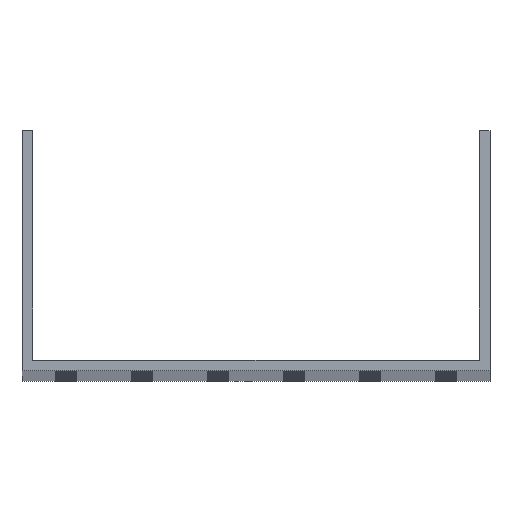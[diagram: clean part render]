
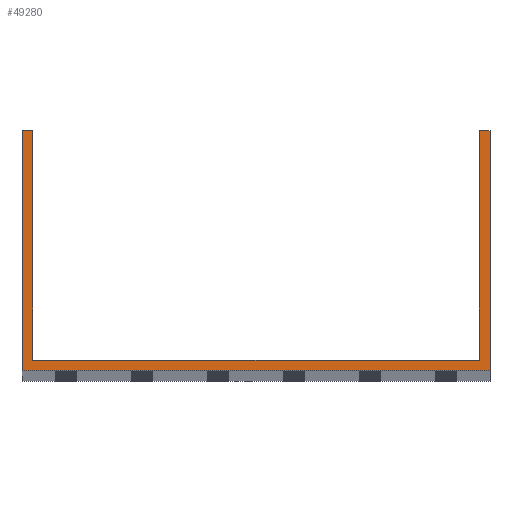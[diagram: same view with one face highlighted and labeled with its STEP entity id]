
A CAD part, top view. The second image highlights one B-rep face of the part: STEP entity #49280.
In plain terms, the highlighted planar face has unit normal (0, 0, 1).
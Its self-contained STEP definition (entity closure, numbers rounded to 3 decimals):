
#609 = AXIS2_PLACEMENT_3D ( 'NONE', #64916, #55627, #9570 ) ;
#1478 = VECTOR ( 'NONE', #8134, 1000. ) ;
#1769 = LINE ( 'NONE', #62081, #45636 ) ;
#4816 = VECTOR ( 'NONE', #45851, 1000. ) ;
#5750 = CARTESIAN_POINT ( 'NONE',  ( 77., 0., 1000. ) ) ;
#7536 = CARTESIAN_POINT ( 'NONE',  ( -77., 0., 1000. ) ) ;
#8134 = DIRECTION ( 'NONE',  ( 1., 0., 0. ) ) ;
#9160 = ORIENTED_EDGE ( 'NONE', *, *, #48525, .T. ) ;
#9570 = DIRECTION ( 'NONE',  ( 1., 0., 0. ) ) ;
#10573 = LINE ( 'NONE', #42027, #43403 ) ;
#11366 = LINE ( 'NONE', #26270, #25246 ) ;
#11472 = CARTESIAN_POINT ( 'NONE',  ( -73.5, 79., 1000. ) ) ;
#12457 = EDGE_CURVE ( 'NONE', #39466, #64812, #47247, .T. ) ;
#12770 = CARTESIAN_POINT ( 'NONE',  ( -77., 0., 1000. ) ) ;
#12848 = EDGE_CURVE ( 'NONE', #35531, #17724, #1769, .T. ) ;
#13494 = DIRECTION ( 'NONE',  ( 1., 0., 0. ) ) ;
#13729 = EDGE_CURVE ( 'NONE', #28299, #50551, #10573, .T. ) ;
#14885 = CARTESIAN_POINT ( 'NONE',  ( 77., 79., 1000. ) ) ;
#16999 = DIRECTION ( 'NONE',  ( 0., -1., 0. ) ) ;
#17086 = DIRECTION ( 'NONE',  ( 0., -1., 0. ) ) ;
#17724 = VERTEX_POINT ( 'NONE', #7536 ) ;
#18060 = DIRECTION ( 'NONE',  ( -1., 0., 0. ) ) ;
#18456 = LINE ( 'NONE', #30269, #46049 ) ;
#23847 = VERTEX_POINT ( 'NONE', #39009 ) ;
#24040 = ORIENTED_EDGE ( 'NONE', *, *, #58725, .T. ) ;
#25246 = VECTOR ( 'NONE', #36215, 1000. ) ;
#25297 = CARTESIAN_POINT ( 'NONE',  ( -77., 79., 1000. ) ) ;
#26270 = CARTESIAN_POINT ( 'NONE',  ( 73.5, 79., 1000. ) ) ;
#27107 = DIRECTION ( 'NONE',  ( 0., 1., 0. ) ) ;
#28299 = VERTEX_POINT ( 'NONE', #5750 ) ;
#29212 = ORIENTED_EDGE ( 'NONE', *, *, #51112, .F. ) ;
#29695 = VECTOR ( 'NONE', #17086, 1000. ) ;
#30269 = CARTESIAN_POINT ( 'NONE',  ( -77., 3.5, 1000. ) ) ;
#33641 = LINE ( 'NONE', #12770, #1478 ) ;
#33698 = LINE ( 'NONE', #25297, #4816 ) ;
#33930 = ORIENTED_EDGE ( 'NONE', *, *, #48520, .F. ) ;
#34826 = CARTESIAN_POINT ( 'NONE',  ( -73.5, 3.5, 1000. ) ) ;
#35531 = VERTEX_POINT ( 'NONE', #46603 ) ;
#36215 = DIRECTION ( 'NONE',  ( 0., 1., 0. ) ) ;
#37299 = LINE ( 'NONE', #57837, #55870 ) ;
#37763 = EDGE_LOOP ( 'NONE', ( #50141, #47531, #60135, #24040, #65078, #9160, #29212, #33930 ) ) ;
#39009 = CARTESIAN_POINT ( 'NONE',  ( 73.5, 3.5, 1000. ) ) ;
#39466 = VERTEX_POINT ( 'NONE', #51501 ) ;
#42027 = CARTESIAN_POINT ( 'NONE',  ( 77., 79., 1000. ) ) ;
#43403 = VECTOR ( 'NONE', #27107, 1000. ) ;
#44696 = FACE_OUTER_BOUND ( 'NONE', #37763, .T. ) ;
#45036 = PLANE ( 'NONE',  #609 ) ;
#45636 = VECTOR ( 'NONE', #16999, 1000. ) ;
#45851 = DIRECTION ( 'NONE',  ( -1., 0., 0. ) ) ;
#46049 = VECTOR ( 'NONE', #13494, 1000. ) ;
#46603 = CARTESIAN_POINT ( 'NONE',  ( -77., 79., 1000. ) ) ;
#47247 = LINE ( 'NONE', #11472, #29695 ) ;
#47531 = ORIENTED_EDGE ( 'NONE', *, *, #49994, .T. ) ;
#48520 = EDGE_CURVE ( 'NONE', #64812, #23847, #18456, .T. ) ;
#48525 = EDGE_CURVE ( 'NONE', #50551, #56197, #33698, .T. ) ;
#49280 = ADVANCED_FACE ( 'NONE', ( #44696 ), #45036, .T. ) ;
#49994 = EDGE_CURVE ( 'NONE', #39466, #35531, #37299, .T. ) ;
#50141 = ORIENTED_EDGE ( 'NONE', *, *, #12457, .F. ) ;
#50551 = VERTEX_POINT ( 'NONE', #14885 ) ;
#51112 = EDGE_CURVE ( 'NONE', #23847, #56197, #11366, .T. ) ;
#51501 = CARTESIAN_POINT ( 'NONE',  ( -73.5, 79., 1000. ) ) ;
#55627 = DIRECTION ( 'NONE',  ( 0., 0., 1. ) ) ;
#55870 = VECTOR ( 'NONE', #18060, 1000. ) ;
#56197 = VERTEX_POINT ( 'NONE', #57834 ) ;
#57834 = CARTESIAN_POINT ( 'NONE',  ( 73.5, 79., 1000. ) ) ;
#57837 = CARTESIAN_POINT ( 'NONE',  ( -77., 79., 1000. ) ) ;
#58725 = EDGE_CURVE ( 'NONE', #17724, #28299, #33641, .T. ) ;
#60135 = ORIENTED_EDGE ( 'NONE', *, *, #12848, .T. ) ;
#62081 = CARTESIAN_POINT ( 'NONE',  ( -77., 79., 1000. ) ) ;
#64812 = VERTEX_POINT ( 'NONE', #34826 ) ;
#64916 = CARTESIAN_POINT ( 'NONE',  ( 0., 0., 1000. ) ) ;
#65078 = ORIENTED_EDGE ( 'NONE', *, *, #13729, .T. ) ;
